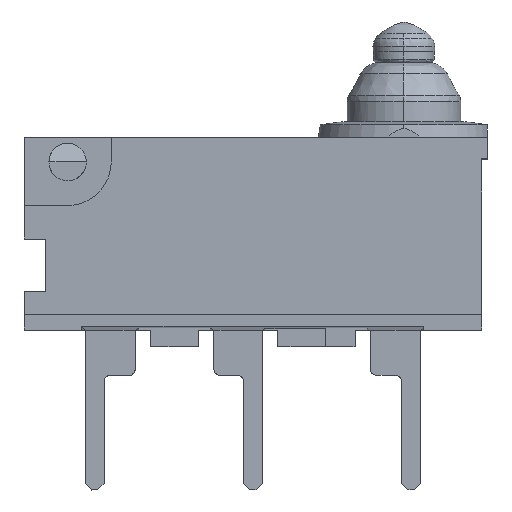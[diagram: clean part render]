
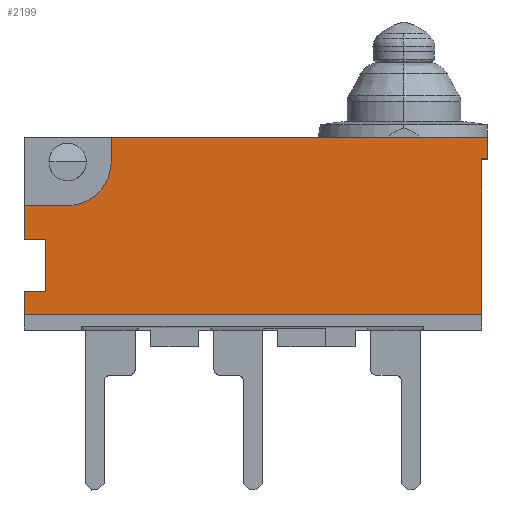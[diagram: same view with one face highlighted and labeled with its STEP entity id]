
A CAD part, top view. The second image highlights one B-rep face of the part: STEP entity #2199.
In plain terms, the highlighted planar face has unit normal (0, 0, 1).
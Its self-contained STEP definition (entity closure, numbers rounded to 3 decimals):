
#7 = CARTESIAN_POINT ( 'NONE',  ( 8.05, 7.65, 2.525 ) ) ;
#79 = CARTESIAN_POINT ( 'NONE',  ( 8.05, 1.95, 2.525 ) ) ;
#206 = ORIENTED_EDGE ( 'NONE', *, *, #6162, .F. ) ;
#242 = DIRECTION ( 'NONE',  ( 1., 0., 0. ) ) ;
#263 = CARTESIAN_POINT ( 'NONE',  ( 8.05, 7.65, 2.525 ) ) ;
#287 = CARTESIAN_POINT ( 'NONE',  ( -6.15, 4.375, 2.525 ) ) ;
#309 = DIRECTION ( 'NONE',  ( -1., 0., 0. ) ) ;
#333 = DIRECTION ( 'NONE',  ( 1., 0., 0. ) ) ;
#351 = CARTESIAN_POINT ( 'NONE',  ( 8.05, 5.45, 2.525 ) ) ;
#550 = CARTESIAN_POINT ( 'NONE',  ( 7.85, 1.95, 2.525 ) ) ;
#604 = CARTESIAN_POINT ( 'NONE',  ( -6.15, 2.7, 2.525 ) ) ;
#618 = CARTESIAN_POINT ( 'NONE',  ( 8.05, 1.95, 2.525 ) ) ;
#656 = VERTEX_POINT ( 'NONE', #671 ) ;
#671 = CARTESIAN_POINT ( 'NONE',  ( -6.85, 5.45, 2.525 ) ) ;
#694 = EDGE_CURVE ( 'NONE', #4443, #4344, #964, .T. ) ;
#722 = VERTEX_POINT ( 'NONE', #604 ) ;
#727 = DIRECTION ( 'NONE',  ( 0., -1., 0. ) ) ;
#964 = LINE ( 'NONE', #550, #1269 ) ;
#1015 = ORIENTED_EDGE ( 'NONE', *, *, #7416, .F. ) ;
#1080 = DIRECTION ( 'NONE',  ( 0., -1., 0. ) ) ;
#1092 = DIRECTION ( 'NONE',  ( 0., 0., 1. ) ) ;
#1100 = CARTESIAN_POINT ( 'NONE',  ( -5.45, 6.85, 2.525 ) ) ;
#1149 = DIRECTION ( 'NONE',  ( 1., 0., 0. ) ) ;
#1269 = VECTOR ( 'NONE', #727, 1000. ) ;
#1671 = CIRCLE ( 'NONE', #7986, 1.4 ) ;
#1851 = VECTOR ( 'NONE', #3526, 1000. ) ;
#1940 = VECTOR ( 'NONE', #2954, 1000. ) ;
#1944 = EDGE_CURVE ( 'NONE', #3538, #722, #4841, .T. ) ;
#2028 = VECTOR ( 'NONE', #1149, 1000. ) ;
#2053 = CARTESIAN_POINT ( 'NONE',  ( -6.85, 1.95, 2.525 ) ) ;
#2064 = DIRECTION ( 'NONE',  ( 0., 1., 0. ) ) ;
#2078 = CARTESIAN_POINT ( 'NONE',  ( -4.05, 1.95, 2.525 ) ) ;
#2199 = ADVANCED_FACE ( 'NONE', ( #7109 ), #7329, .F. ) ;
#2430 = VERTEX_POINT ( 'NONE', #5919 ) ;
#2482 = DIRECTION ( 'NONE',  ( -1., 0., 0. ) ) ;
#2548 = ORIENTED_EDGE ( 'NONE', *, *, #5984, .F. ) ;
#2550 = AXIS2_PLACEMENT_3D ( 'NONE', #79, #2682, #2482 ) ;
#2575 = LINE ( 'NONE', #263, #4173 ) ;
#2590 = VERTEX_POINT ( 'NONE', #2713 ) ;
#2682 = DIRECTION ( 'NONE',  ( 0., 0., -1. ) ) ;
#2713 = CARTESIAN_POINT ( 'NONE',  ( -5.45, 5.45, 2.525 ) ) ;
#2785 = LINE ( 'NONE', #618, #7328 ) ;
#2870 = ORIENTED_EDGE ( 'NONE', *, *, #6187, .F. ) ;
#2954 = DIRECTION ( 'NONE',  ( 0., -1., 0. ) ) ;
#2981 = CARTESIAN_POINT ( 'NONE',  ( -6.15, 2.7, 2.525 ) ) ;
#3055 = ORIENTED_EDGE ( 'NONE', *, *, #7014, .F. ) ;
#3086 = ORIENTED_EDGE ( 'NONE', *, *, #6860, .F. ) ;
#3342 = EDGE_LOOP ( 'NONE', ( #8183, #7306, #7131, #6881, #5822, #6279, #4307, #3055, #2870, #2548, #3086, #206, #1015 ) ) ;
#3367 = VECTOR ( 'NONE', #2064, 1000. ) ;
#3526 = DIRECTION ( 'NONE',  ( 1., 0., 0. ) ) ;
#3538 = VERTEX_POINT ( 'NONE', #287 ) ;
#3545 = CARTESIAN_POINT ( 'NONE',  ( 7.85, 6.95, 2.525 ) ) ;
#3575 = LINE ( 'NONE', #5494, #5630 ) ;
#3650 = VECTOR ( 'NONE', #6136, 1000. ) ;
#3654 = EDGE_CURVE ( 'NONE', #7686, #3538, #6899, .T. ) ;
#3710 = VERTEX_POINT ( 'NONE', #5384 ) ;
#3862 = LINE ( 'NONE', #5037, #3650 ) ;
#3887 = LINE ( 'NONE', #351, #4063 ) ;
#4005 = CARTESIAN_POINT ( 'NONE',  ( -6.85, 4.375, 2.525 ) ) ;
#4010 = LINE ( 'NONE', #3545, #1851 ) ;
#4063 = VECTOR ( 'NONE', #333, 1000. ) ;
#4173 = VECTOR ( 'NONE', #242, 1000. ) ;
#4254 = CARTESIAN_POINT ( 'NONE',  ( -6.85, 4.375, 2.525 ) ) ;
#4307 = ORIENTED_EDGE ( 'NONE', *, *, #6673, .T. ) ;
#4344 = VERTEX_POINT ( 'NONE', #7960 ) ;
#4364 = VECTOR ( 'NONE', #6164, 1000. ) ;
#4443 = VERTEX_POINT ( 'NONE', #7461 ) ;
#4607 = LINE ( 'NONE', #6418, #4364 ) ;
#4729 = CARTESIAN_POINT ( 'NONE',  ( -4.05, 6.85, 2.525 ) ) ;
#4841 = LINE ( 'NONE', #2981, #1940 ) ;
#4890 = VERTEX_POINT ( 'NONE', #6402 ) ;
#4967 = LINE ( 'NONE', #5764, #6621 ) ;
#5037 = CARTESIAN_POINT ( 'NONE',  ( -6.85, 4.375, 2.525 ) ) ;
#5361 = VERTEX_POINT ( 'NONE', #4729 ) ;
#5384 = CARTESIAN_POINT ( 'NONE',  ( -6.85, 2.7, 2.525 ) ) ;
#5494 = CARTESIAN_POINT ( 'NONE',  ( 8.05, 6.95, 2.525 ) ) ;
#5551 = DIRECTION ( 'NONE',  ( 0., -1., 0. ) ) ;
#5630 = VECTOR ( 'NONE', #5551, 1000. ) ;
#5692 = DIRECTION ( 'NONE',  ( 0., 1., 0. ) ) ;
#5764 = CARTESIAN_POINT ( 'NONE',  ( -6.85, 1.45, 2.525 ) ) ;
#5822 = ORIENTED_EDGE ( 'NONE', *, *, #6941, .F. ) ;
#5919 = CARTESIAN_POINT ( 'NONE',  ( -4.05, 7.65, 2.525 ) ) ;
#5984 = EDGE_CURVE ( 'NONE', #5361, #2430, #6011, .T. ) ;
#5996 = VERTEX_POINT ( 'NONE', #2053 ) ;
#6011 = LINE ( 'NONE', #2078, #3367 ) ;
#6136 = DIRECTION ( 'NONE',  ( 0., 1., 0. ) ) ;
#6162 = EDGE_CURVE ( 'NONE', #656, #2590, #3887, .T. ) ;
#6164 = DIRECTION ( 'NONE',  ( -1., 0., 0. ) ) ;
#6187 = EDGE_CURVE ( 'NONE', #2430, #7389, #2575, .T. ) ;
#6279 = ORIENTED_EDGE ( 'NONE', *, *, #694, .F. ) ;
#6402 = CARTESIAN_POINT ( 'NONE',  ( 8.05, 6.95, 2.525 ) ) ;
#6418 = CARTESIAN_POINT ( 'NONE',  ( -6.85, 2.7, 2.525 ) ) ;
#6621 = VECTOR ( 'NONE', #5692, 1000. ) ;
#6673 = EDGE_CURVE ( 'NONE', #4443, #4890, #4010, .T. ) ;
#6860 = EDGE_CURVE ( 'NONE', #2590, #5361, #1671, .T. ) ;
#6881 = ORIENTED_EDGE ( 'NONE', *, *, #7918, .F. ) ;
#6899 = LINE ( 'NONE', #4254, #2028 ) ;
#6941 = EDGE_CURVE ( 'NONE', #4344, #5996, #2785, .T. ) ;
#7014 = EDGE_CURVE ( 'NONE', #7389, #4890, #3575, .T. ) ;
#7109 = FACE_OUTER_BOUND ( 'NONE', #3342, .T. ) ;
#7131 = ORIENTED_EDGE ( 'NONE', *, *, #7137, .T. ) ;
#7137 = EDGE_CURVE ( 'NONE', #722, #3710, #4607, .T. ) ;
#7306 = ORIENTED_EDGE ( 'NONE', *, *, #1944, .T. ) ;
#7328 = VECTOR ( 'NONE', #309, 1000. ) ;
#7329 = PLANE ( 'NONE',  #2550 ) ;
#7389 = VERTEX_POINT ( 'NONE', #7 ) ;
#7416 = EDGE_CURVE ( 'NONE', #7686, #656, #3862, .T. ) ;
#7461 = CARTESIAN_POINT ( 'NONE',  ( 7.85, 6.95, 2.525 ) ) ;
#7686 = VERTEX_POINT ( 'NONE', #4005 ) ;
#7918 = EDGE_CURVE ( 'NONE', #5996, #3710, #4967, .T. ) ;
#7960 = CARTESIAN_POINT ( 'NONE',  ( 7.85, 1.95, 2.525 ) ) ;
#7986 = AXIS2_PLACEMENT_3D ( 'NONE', #1100, #1092, #1080 ) ;
#8183 = ORIENTED_EDGE ( 'NONE', *, *, #3654, .T. ) ;
